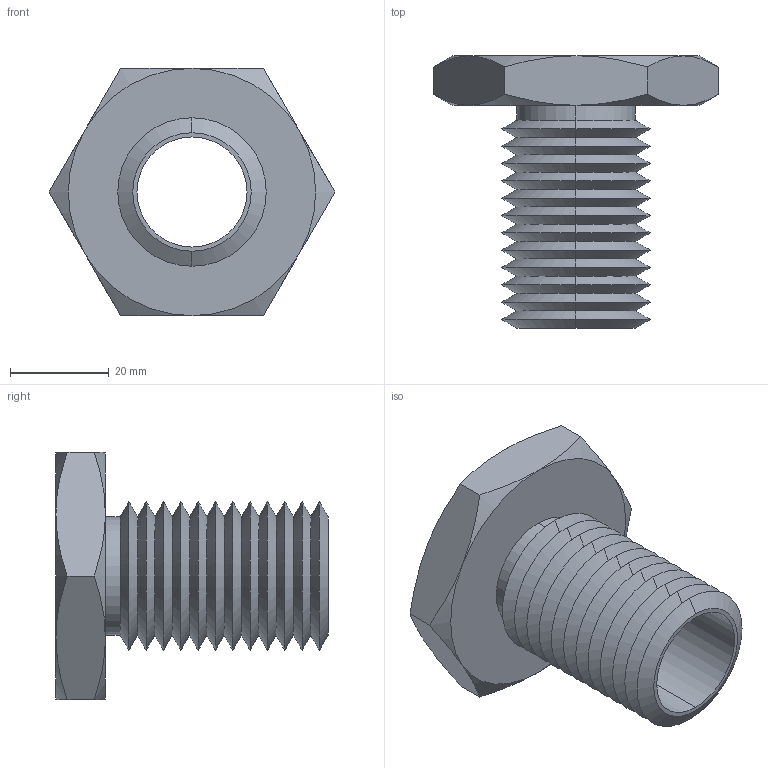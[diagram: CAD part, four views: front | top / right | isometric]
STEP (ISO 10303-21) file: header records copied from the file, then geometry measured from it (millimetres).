
FILE_DESCRIPTION (( 'STEP AP203' ), '1' );
FILE_NAME ('63302.W0030_0,87 UNC-9.step', '2013-12-08T11:08:27', ( 'User' ), ( '' ), 'SwSTEP 2.0', 'SolidWorks 2009', '' );
FILE_SCHEMA (( 'CONFIG_CONTROL_DESIGN' ));
Length unit declared in the file: millimetre
Products named in the file (1): 63302.W0030_0,87 UNC-9
Bounding box: 57.73 x 55 x 50 mm (x, y, z)
Volume: 25173.8 mm3; surface area: 16161.5 mm2
Topology: 1 solids, 1 shells, 75 faces, 154 edges, 82 vertices
Faces by surface type: cone 62, plane 9, cylinder 4
Entity records: 2139 total; most frequent: CARTESIAN_POINT 496, DIRECTION 352, ORIENTED_EDGE 308, EDGE_CURVE 154, AXIS2_PLACEMENT_3D 146, VERTEX_POINT 82, EDGE_LOOP 78, ADVANCED_FACE 75
